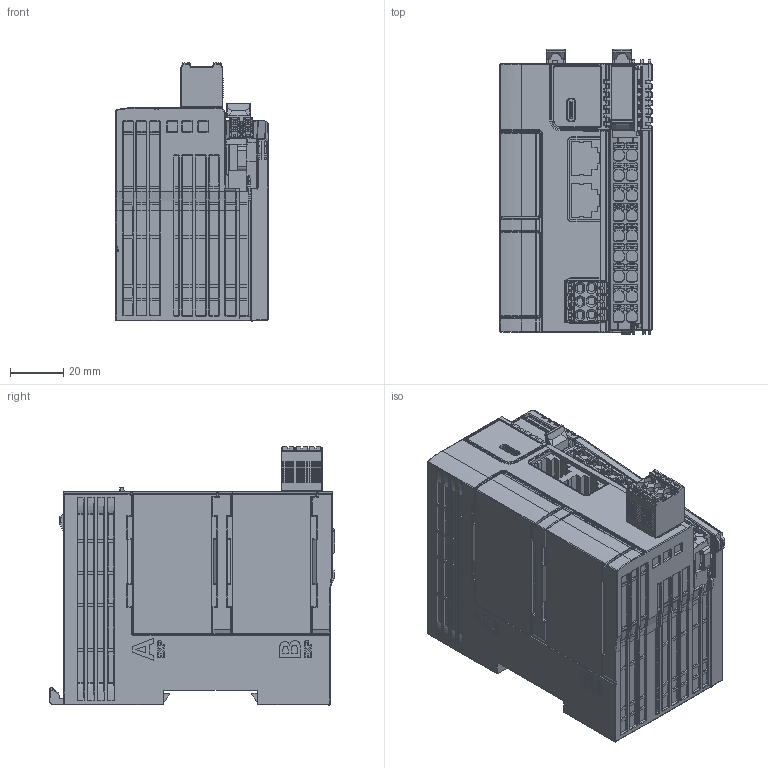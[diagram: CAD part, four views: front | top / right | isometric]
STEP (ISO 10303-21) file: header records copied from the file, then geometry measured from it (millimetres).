
FILE_DESCRIPTION((''),'2;1');
FILE_NAME('000-EASY320-WX_ASM_1_ASM','2022-07-05T',('10002586'),(''),'CREO PARAMETRIC BY PTC INC, 2015290','CREO PARAMETRIC BY PTC INC, 2015290','');
FILE_SCHEMA(('CONFIG_CONTROL_DESIGN'));
Products named in the file (3): 000-EASY320-WX_1; 20212484-WX_13; 000-EASY320-WX_ASM_1_ASM
Assembly tree (2 placements, depth 2):
  000-EASY320-WX_ASM_1_ASM
    000-EASY320-WX_1
    20212484-WX_13
Bounding box: 57 x 107.04 x 96.77 mm (x, y, z)
Volume: 408785.1 mm3; surface area: 72145.4 mm2
Topology: 2 solids, 2 shells, 6183 faces, 16653 edges, 10459 vertices
Faces by surface type: plane 3301, cylinder 1935, bspline 504, torus 200, extrusion 143, sphere 81, cone 18, revolution 1
Entity records: 247698 total; most frequent: CARTESIAN_POINT 98825, ORIENTED_EDGE 33132, DIRECTION 27776, EDGE_CURVE 16566, VECTOR 10897, LINE 10754, VERTEX_POINT 10459, AXIS2_PLACEMENT_3D 8439
